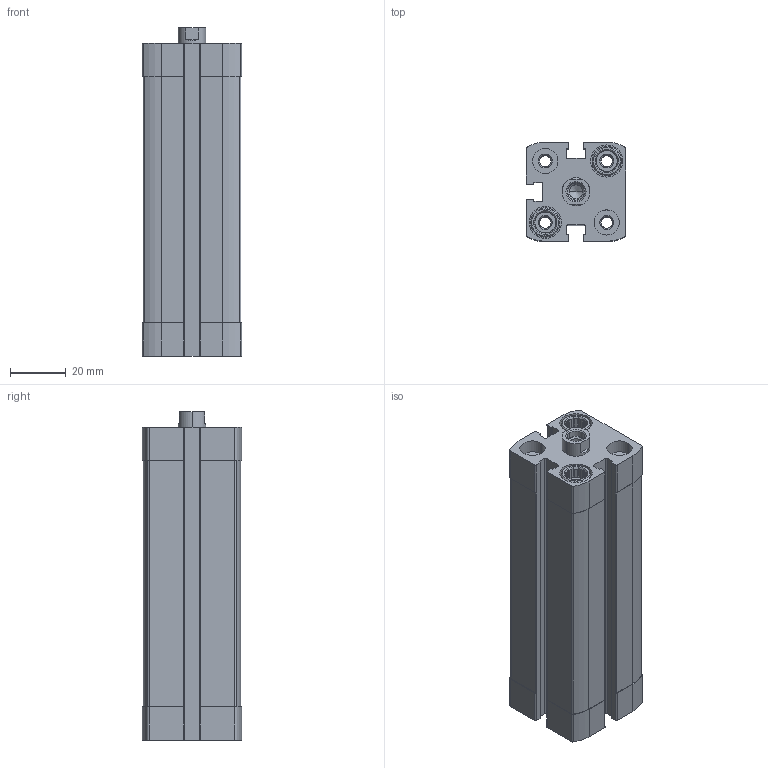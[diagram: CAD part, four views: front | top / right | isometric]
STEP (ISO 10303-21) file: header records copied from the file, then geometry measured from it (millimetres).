
FILE_DESCRIPTION (( 'STEP AP203' ), '1' );
FILE_NAME ('CCN20-75F.STEP', '2017-03-28T15:37:51', ( '' ), ( '' ), 'SwSTEP 2.0', 'SolidWorks 2016', '' );
FILE_SCHEMA (( 'CONFIG_CONTROL_DESIGN' ));
Length unit declared in the file: millimetre
Products named in the file (3): CCN20-75F; CCN-75---(Z); CCN-75-_(KS)
Assembly tree (2 placements, depth 2):
  CCN20-75F
    CCN-75---(Z)
    CCN-75-_(KS)
Bounding box: 35.5 x 35.5 x 117.5 mm (x, y, z)
Volume: 96365.2 mm3; surface area: 41421.7 mm2
Topology: 2 solids, 2 shells, 407 faces, 1084 edges, 711 vertices
Faces by surface type: plane 231, cylinder 134, cone 42
Entity records: 13161 total; most frequent: CARTESIAN_POINT 2499, DIRECTION 2224, ORIENTED_EDGE 2164, EDGE_CURVE 1082, AXIS2_PLACEMENT_3D 828, VERTEX_POINT 711, LINE 568, VECTOR 568
